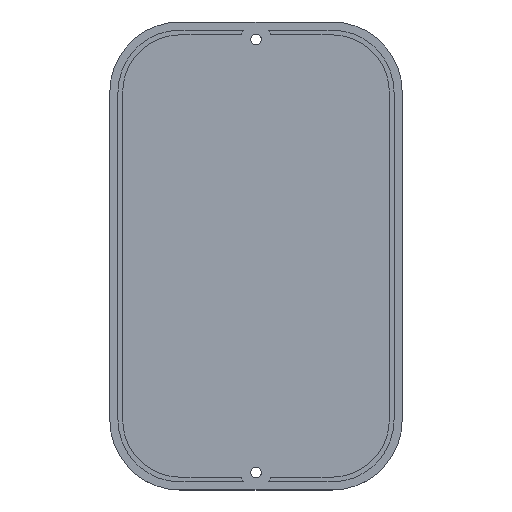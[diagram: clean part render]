
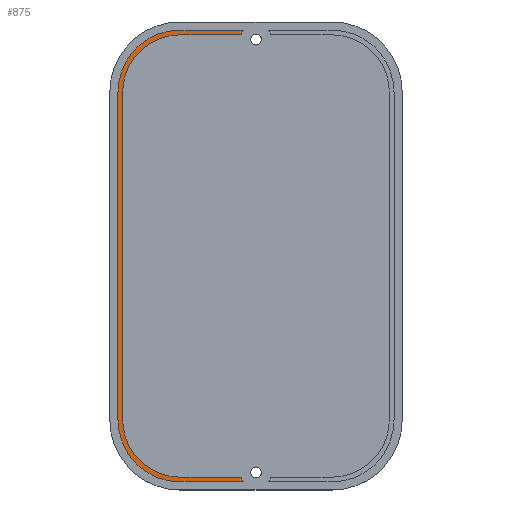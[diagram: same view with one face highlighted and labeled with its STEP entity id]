
A CAD part, top view. The second image highlights one B-rep face of the part: STEP entity #875.
In plain terms, the highlighted planar face has unit normal (0, 0, 1).
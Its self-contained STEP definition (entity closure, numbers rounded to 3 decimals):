
#726 = VERTEX_POINT('',#727);
#727 = CARTESIAN_POINT('',(22.888,78.6,2.2));
#735 = VERTEX_POINT('',#736);
#736 = CARTESIAN_POINT('',(12.,78.6,2.2));
#742 = EDGE_CURVE('',#735,#726,#743,.T.);
#743 = LINE('',#744,#745);
#744 = CARTESIAN_POINT('',(12.,78.6,2.2));
#745 = VECTOR('',#746,1.);
#746 = DIRECTION('',(1.,0.,0.));
#758 = EDGE_CURVE('',#735,#759,#761,.T.);
#759 = VERTEX_POINT('',#760);
#760 = CARTESIAN_POINT('',(1.4,68.,2.2));
#761 = CIRCLE('',#762,10.6);
#762 = AXIS2_PLACEMENT_3D('',#763,#764,#765);
#763 = CARTESIAN_POINT('',(12.,68.,2.2));
#764 = DIRECTION('',(0.,0.,1.));
#765 = DIRECTION('',(1.,0.,0.));
#782 = VERTEX_POINT('',#783);
#783 = CARTESIAN_POINT('',(1.4,12.,2.2));
#791 = EDGE_CURVE('',#782,#759,#792,.T.);
#792 = LINE('',#793,#794);
#793 = CARTESIAN_POINT('',(1.4,12.,2.2));
#794 = VECTOR('',#795,1.);
#795 = DIRECTION('',(0.,1.,0.));
#806 = VERTEX_POINT('',#807);
#807 = CARTESIAN_POINT('',(12.,1.4,2.2));
#815 = EDGE_CURVE('',#782,#806,#816,.T.);
#816 = CIRCLE('',#817,10.6);
#817 = AXIS2_PLACEMENT_3D('',#818,#819,#820);
#818 = CARTESIAN_POINT('',(12.,12.,2.2));
#819 = DIRECTION('',(0.,0.,1.));
#820 = DIRECTION('',(1.,0.,0.));
#831 = VERTEX_POINT('',#832);
#832 = CARTESIAN_POINT('',(22.888,1.4,2.2));
#840 = EDGE_CURVE('',#806,#831,#841,.T.);
#841 = LINE('',#842,#843);
#842 = CARTESIAN_POINT('',(12.,1.4,2.2));
#843 = VECTOR('',#844,1.);
#844 = DIRECTION('',(1.,0.,0.));
#855 = VERTEX_POINT('',#856);
#856 = CARTESIAN_POINT('',(22.474,77.8,2.2));
#864 = EDGE_CURVE('',#855,#726,#865,.T.);
#865 = CIRCLE('',#866,2.65);
#866 = AXIS2_PLACEMENT_3D('',#867,#868,#869);
#867 = CARTESIAN_POINT('',(25.,77.,2.2));
#868 = DIRECTION('',(0.,0.,-1.));
#869 = DIRECTION('',(1.,0.,0.));
#875 = ADVANCED_FACE('',(#876),#933,.T.);
#876 = FACE_BOUND('',#877,.T.);
#877 = EDGE_LOOP('',(#878,#879,#880,#881,#890,#898,#907,#915,#924,#930,
    #931,#932));
#878 = ORIENTED_EDGE('',*,*,#791,.F.);
#879 = ORIENTED_EDGE('',*,*,#815,.T.);
#880 = ORIENTED_EDGE('',*,*,#840,.T.);
#881 = ORIENTED_EDGE('',*,*,#882,.T.);
#882 = EDGE_CURVE('',#831,#883,#885,.T.);
#883 = VERTEX_POINT('',#884);
#884 = CARTESIAN_POINT('',(22.474,2.2,2.2));
#885 = CIRCLE('',#886,2.65);
#886 = AXIS2_PLACEMENT_3D('',#887,#888,#889);
#887 = CARTESIAN_POINT('',(25.,3.,2.2));
#888 = DIRECTION('',(0.,0.,-1.));
#889 = DIRECTION('',(1.,0.,0.));
#890 = ORIENTED_EDGE('',*,*,#891,.T.);
#891 = EDGE_CURVE('',#883,#892,#894,.T.);
#892 = VERTEX_POINT('',#893);
#893 = CARTESIAN_POINT('',(12.,2.2,2.2));
#894 = LINE('',#895,#896);
#895 = CARTESIAN_POINT('',(18.5,2.2,2.2));
#896 = VECTOR('',#897,1.);
#897 = DIRECTION('',(-1.,0.,0.));
#898 = ORIENTED_EDGE('',*,*,#899,.T.);
#899 = EDGE_CURVE('',#892,#900,#902,.T.);
#900 = VERTEX_POINT('',#901);
#901 = CARTESIAN_POINT('',(2.2,12.,2.2));
#902 = CIRCLE('',#903,9.8);
#903 = AXIS2_PLACEMENT_3D('',#904,#905,#906);
#904 = CARTESIAN_POINT('',(12.,12.,2.2));
#905 = DIRECTION('',(0.,0.,-1.));
#906 = DIRECTION('',(1.,0.,0.));
#907 = ORIENTED_EDGE('',*,*,#908,.T.);
#908 = EDGE_CURVE('',#900,#909,#911,.T.);
#909 = VERTEX_POINT('',#910);
#910 = CARTESIAN_POINT('',(2.2,68.,2.2));
#911 = LINE('',#912,#913);
#912 = CARTESIAN_POINT('',(2.2,26.,2.2));
#913 = VECTOR('',#914,1.);
#914 = DIRECTION('',(0.,1.,0.));
#915 = ORIENTED_EDGE('',*,*,#916,.T.);
#916 = EDGE_CURVE('',#909,#917,#919,.T.);
#917 = VERTEX_POINT('',#918);
#918 = CARTESIAN_POINT('',(12.,77.8,2.2));
#919 = CIRCLE('',#920,9.8);
#920 = AXIS2_PLACEMENT_3D('',#921,#922,#923);
#921 = CARTESIAN_POINT('',(12.,68.,2.2));
#922 = DIRECTION('',(0.,0.,-1.));
#923 = DIRECTION('',(1.,0.,0.));
#924 = ORIENTED_EDGE('',*,*,#925,.F.);
#925 = EDGE_CURVE('',#855,#917,#926,.T.);
#926 = LINE('',#927,#928);
#927 = CARTESIAN_POINT('',(18.5,77.8,2.2));
#928 = VECTOR('',#929,1.);
#929 = DIRECTION('',(-1.,0.,0.));
#930 = ORIENTED_EDGE('',*,*,#864,.T.);
#931 = ORIENTED_EDGE('',*,*,#742,.F.);
#932 = ORIENTED_EDGE('',*,*,#758,.T.);
#933 = PLANE('',#934);
#934 = AXIS2_PLACEMENT_3D('',#935,#936,#937);
#935 = CARTESIAN_POINT('',(25.,40.,2.2));
#936 = DIRECTION('',(0.,0.,1.));
#937 = DIRECTION('',(1.,0.,0.));
